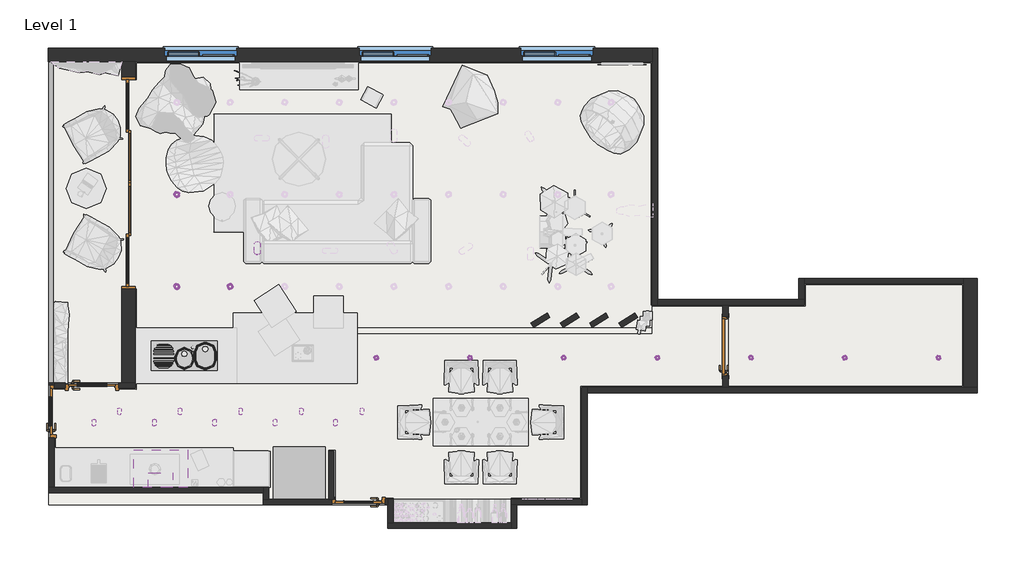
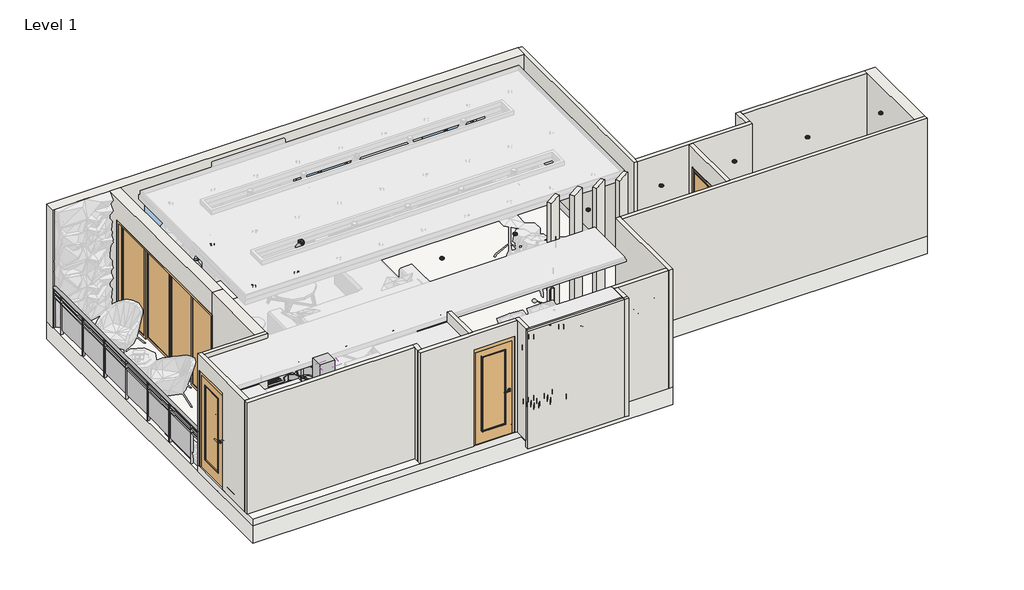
# One storey, part 1 of 3: 25 walls, 22 light fixtures, 5 doors, 3 slabs, 3 windows, 1 covering, 1 flow terminal, 1 railing.
"""IFC4 building model written with IfcOpenShell, lengths in millimetres."""

from ifc_helpers import new_model, si_unit, point, frame, origin, place, context, project, spatial, polyline, ellipse_curve, trimmed, outline, extrude, faceted_brep, transform, mapped, element, save
from ifc_brep_helpers import plane_surface, extruded_surface, advanced_brep
from components import door_7d5fc318, door_passage_single_full_lite_door_passage_single_full_lite_b622ab86, sliding_door_4_panel_aus_type_1_f1a49f1a, sink_kitchen_medium_2_basins_1120_x_500mm_da78ea91, sink_kitchen_medium_2_basins_1120_x_500mm_2c090bb4, light_fixture_2c5a0347, light_fixture_a992c653, light_fixture_01643114, corepro_led_mini_cylinder_a80fb04c, corepro_led_mini_cylinder_4b529b81, s2_2_7ed8d57b, s2_2_4e384665, floors_1_floors_1_6af37cf8, sco_horz_bar_dbl_sco_horz_bar_dbl_0faa4f1c

model = new_model("IFC4")

# Units and contexts
model_context = context("Model", 3, world=origin())
ifc_project = project(units=[si_unit("LENGTHUNIT", "METRE", prefix="MILLI")], contexts=[model_context])

# Site, building, storey
site = spatial("IfcSite", under=ifc_project)
building = spatial("IfcBuilding", under=site)
storey = spatial("IfcBuildingStorey", under=building, Name="Level 1", Elevation=0.0)

# Covering
placement = place(None, origin())
element("IfcCovering", 1, ObjectType="2' x 4' ACT System", at=placement, inside=storey, context=model_context, shape_type="SweptSolid", body=[
    extrude(outline(polyline([(-5841.5111835, -1996.8717041), (-5841.5111835, -2246.8717041), (-6256.2528575, -2246.8717041), (-6256.2528575, -1996.8717041), (-5841.5111835, -1996.8717041)])), frame((0.0, 0.0, 2648.4), z_axis=(0.0, 0.0, 1.0), x_axis=(1.0, 0.0, 0.0)), (0.0, 0.0, 1.0), 57.15),
])

# Doors
door_shape = door_7d5fc318(model_context)
element("IfcDoor", 2, ObjectType="Doors-Other- SOGAL-SOG040007 : Bloc Porte Standard 930 (Cloison 72-100mm) Chêne Blanc", at=placement, inside=storey, context=model_context, shape_type="MappedRepresentation", body=[
    mapped(door_shape, transform((3500.1720666, 141.2824486, 0.0), x_axis=(0.0, -1.0, 0.0), y_axis=(1.0, 0.0, 0.0), z_axis=(0.0, 0.0, 1.0))),
])
door_passage_single_full_lite_door_passage_single_full_lite_shape = door_passage_single_full_lite_door_passage_single_full_lite_b622ab86(model_context)
element("IfcDoor", 3, ObjectType="Door-Passage-Single-Full_Lite : Door-Passage-Single-Full_Lite", at=placement, inside=storey, context=model_context, shape_type="MappedRepresentation", body=[
    mapped(door_passage_single_full_lite_door_passage_single_full_lite_shape, transform((-7887.1991004, -961.5989847, 0.0), x_axis=(0.0, 1.0, 0.0), y_axis=(-1.0, 0.0, 0.0), z_axis=(0.0, 0.0, 1.0))),
])
element("IfcDoor", 4, ObjectType="Door-Passage-Single-Full_Lite : Door-Passage-Single-Full_Lite", at=placement, inside=storey, context=model_context, shape_type="MappedRepresentation", body=[
    mapped(door_passage_single_full_lite_door_passage_single_full_lite_shape, transform((-2703.9899912, -2487.6971901, 0.0), x_axis=(-1.0, 0.0, 0.0), y_axis=(0.0, -1.0, 0.0), z_axis=(0.0, 0.0, 1.0))),
])
element("IfcDoor", 5, ObjectType="Door-Passage-Single-Full_Lite : Door-Passage-Single-Full_Lite", at=placement, inside=storey, context=model_context, shape_type="MappedRepresentation", body=[
    mapped(door_passage_single_full_lite_door_passage_single_full_lite_shape, transform((-7209.8250642, -527.9489847, 0.0), x_axis=(1.0, 0.0, 0.0), y_axis=(0.0, 1.0, 0.0), z_axis=(0.0, 0.0, 1.0))),
])
sliding_door_4_panel_aus_type_1_shape = sliding_door_4_panel_aus_type_1_f1a49f1a(model_context)
element("IfcDoor", 6, ObjectType="Sliding Door - 4 Panel (AUS) : Type 1", at=placement, inside=storey, context=model_context, shape_type="MappedRepresentation", body=[
    mapped(sliding_door_4_panel_aus_type_1_shape, transform((-6589.8250642, 2985.0873888, -150.0), x_axis=(0.0, -1.0, 0.0), y_axis=(1.0, 0.0, 0.0), z_axis=(0.0, 0.0, 1.0))),
])

# Flow terminal
sink_kitchen_medium_2_basins_1120_x_500mm_shape = sink_kitchen_medium_2_basins_1120_x_500mm_da78ea91(model_context)
sink_kitchen_medium_2_basins_1120_x_500mm_2_shape = sink_kitchen_medium_2_basins_1120_x_500mm_2c090bb4(model_context)
element("IfcFlowTerminal", 7, ObjectType="Sink Kitchen - Medium 2 Basins : 1120 x 500mm", at=placement, inside=storey, context=model_context, shape_type="MappedRepresentation", body=[
    mapped(sink_kitchen_medium_2_basins_1120_x_500mm_shape, transform((-5649.8250642, -21.5989847, 55.0), x_axis=(1.0, 0.0, 0.0), y_axis=(0.0, 1.0, 0.0), z_axis=(0.0, 0.0, 1.0))),
    mapped(sink_kitchen_medium_2_basins_1120_x_500mm_2_shape, transform((-5649.8250642, -21.5989847, 55.0), x_axis=(1.0, 0.0, 0.0), y_axis=(0.0, 1.0, 0.0), z_axis=(0.0, 0.0, 1.0))),
])

# Light fixtures
light_fixture_shape = light_fixture_2c5a0347(model_context)
element("IfcLightFixture", 8, ObjectType="Island_Range_Hood_-_Venice_5338 : Island_Range_Hood_-_Venice_5338", at=placement, inside=storey, context=model_context, shape_type="MappedRepresentation", body=[
    mapped(light_fixture_shape, transform((-6048.8820205, -1928.4744828, 210.0), x_axis=(-1.0, 0.0, 0.0), y_axis=(0.0, -1.0, 0.0), z_axis=(0.0, 0.0, 1.0))),
])
light_fixture_2_shape = light_fixture_a992c653(model_context)
element("IfcLightFixture", 9, ObjectType="adsdsdsasdadas : نور وابسته به سطح مخروط", at=placement, inside=storey, context=model_context, shape_type="MappedRepresentation", body=[
    mapped(light_fixture_2_shape, transform((-2403.9899923, -53.2816204, 2547.3282643), x_axis=(-1.0, 0.0, 0.0), y_axis=(0.0, 1.0, 0.0), z_axis=(0.0, 0.0, -1.0))),
])
element("IfcLightFixture", 10, ObjectType="adsdsdsasdadas : نور وابسته به سطح مخروط", at=placement, inside=storey, context=model_context, shape_type="MappedRepresentation", body=[
    mapped(light_fixture_2_shape, transform((7096.0100077, -53.2816204, 2550.417829), x_axis=(-1.0, 0.0, 0.0), y_axis=(0.0, 1.0, 0.0), z_axis=(0.0, 0.0, -1.0))),
])
element("IfcLightFixture", 11, ObjectType="adsdsdsasdadas : نور وابسته به سطح مخروط", at=placement, inside=storey, context=model_context, shape_type="MappedRepresentation", body=[
    mapped(light_fixture_2_shape, transform((-820.6566589, -53.2816204, 2550.417829), x_axis=(-1.0, 0.0, 0.0), y_axis=(0.0, 1.0, 0.0), z_axis=(0.0, 0.0, -1.0))),
])
element("IfcLightFixture", 12, ObjectType="adsdsdsasdadas : نور وابسته به سطح مخروط", at=placement, inside=storey, context=model_context, shape_type="MappedRepresentation", body=[
    mapped(light_fixture_2_shape, transform((762.6766744, -53.2816204, 2550.417829), x_axis=(-1.0, 0.0, 0.0), y_axis=(0.0, 1.0, 0.0), z_axis=(0.0, 0.0, -1.0))),
])
element("IfcLightFixture", 13, ObjectType="adsdsdsasdadas : نور وابسته به سطح مخروط", at=placement, inside=storey, context=model_context, shape_type="MappedRepresentation", body=[
    mapped(light_fixture_2_shape, transform((2346.0100077, -53.2816204, 2550.417829), x_axis=(-1.0, 0.0, 0.0), y_axis=(0.0, 1.0, 0.0), z_axis=(0.0, 0.0, -1.0))),
])
element("IfcLightFixture", 14, ObjectType="adsdsdsasdadas : نور وابسته به سطح مخروط", at=placement, inside=storey, context=model_context, shape_type="MappedRepresentation", body=[
    mapped(light_fixture_2_shape, transform((3929.3433411, -53.2816204, 2550.417829), x_axis=(-1.0, 0.0, 0.0), y_axis=(0.0, 1.0, 0.0), z_axis=(0.0, 0.0, -1.0))),
])
element("IfcLightFixture", 15, ObjectType="adsdsdsasdadas : نور وابسته به سطح مخروط", at=placement, inside=storey, context=model_context, shape_type="MappedRepresentation", body=[
    mapped(light_fixture_2_shape, transform((5512.6766744, -53.2816204, 2550.417829), x_axis=(-1.0, 0.0, 0.0), y_axis=(0.0, 1.0, 0.0), z_axis=(0.0, 0.0, -1.0))),
])
light_fixture_3_shape = light_fixture_01643114(model_context)
element("IfcLightFixture", 16, ObjectType="PIPES C S : 1700 21W-830 28°", at=placement, inside=storey, context=model_context, shape_type="MappedRepresentation", body=[
    mapped(light_fixture_3_shape, transform((-4413.2653116, 1755.7525122, 2550.0), x_axis=(0.0, -1.0, 0.0), y_axis=(-1.0, 0.0, 0.0), z_axis=(0.0, 0.0, -1.0))),
])
corepro_led_mini_cylinder_shape = corepro_led_mini_cylinder_a80fb04c(model_context)
element("IfcLightFixture", 17, ObjectType="Lighting-Track-Philips_Lightolier-CorePro_LED_Mini_Cylinder : CorePro LED Mini Cylinder", at=placement, inside=storey, context=model_context, shape_type="MappedRepresentation", body=[
    mapped(corepro_led_mini_cylinder_shape, transform((-3094.8250642, -1165.6971901, 2320.0), x_axis=(-1.0, 0.0, 0.0), y_axis=(0.0, 1.0, 0.0), z_axis=(0.0, 0.0, -1.0))),
])
element("IfcLightFixture", 18, ObjectType="Lighting-Track-Philips_Lightolier-CorePro_LED_Mini_Cylinder : CorePro LED Mini Cylinder", at=placement, inside=storey, context=model_context, shape_type="MappedRepresentation", body=[
    mapped(corepro_led_mini_cylinder_shape, transform((-7174.8250642, -1165.6971901, 2320.0), x_axis=(-1.0, 0.0, 0.0), y_axis=(0.0, 1.0, 0.0), z_axis=(0.0, 0.0, -1.0))),
])
element("IfcLightFixture", 19, ObjectType="Lighting-Track-Philips_Lightolier-CorePro_LED_Mini_Cylinder : CorePro LED Mini Cylinder", at=placement, inside=storey, context=model_context, shape_type="MappedRepresentation", body=[
    mapped(corepro_led_mini_cylinder_shape, transform((-4114.8250642, -1165.6971901, 2320.0), x_axis=(-1.0, 0.0, 0.0), y_axis=(0.0, 1.0, 0.0), z_axis=(0.0, 0.0, -1.0))),
])
element("IfcLightFixture", 20, ObjectType="Lighting-Track-Philips_Lightolier-CorePro_LED_Mini_Cylinder : CorePro LED Mini Cylinder", at=placement, inside=storey, context=model_context, shape_type="MappedRepresentation", body=[
    mapped(corepro_led_mini_cylinder_shape, transform((-5134.8250642, -1165.6971901, 2320.0), x_axis=(-1.0, 0.0, 0.0), y_axis=(0.0, 1.0, 0.0), z_axis=(0.0, 0.0, -1.0))),
])
element("IfcLightFixture", 21, ObjectType="Lighting-Track-Philips_Lightolier-CorePro_LED_Mini_Cylinder : CorePro LED Mini Cylinder", at=placement, inside=storey, context=model_context, shape_type="MappedRepresentation", body=[
    mapped(corepro_led_mini_cylinder_shape, transform((-6154.8250642, -1165.6971901, 2320.0), x_axis=(-1.0, 0.0, 0.0), y_axis=(0.0, 1.0, 0.0), z_axis=(0.0, 0.0, -1.0))),
])
corepro_led_mini_cylinder_2_shape = corepro_led_mini_cylinder_4b529b81(model_context)
element("IfcLightFixture", 22, ObjectType="Lighting-Track-Philips_Lightolier-CorePro_LED_Mini_Cylinder : CorePro LED Mini Cylinder", at=placement, inside=storey, context=model_context, shape_type="MappedRepresentation", body=[
    mapped(corepro_led_mini_cylinder_2_shape, transform((-2644.8250642, -946.7891797, 2320.0), x_axis=(-1.0, 0.0, 0.0), y_axis=(0.0, 1.0, 0.0), z_axis=(0.0, 0.0, -1.0))),
])
element("IfcLightFixture", 23, ObjectType="Lighting-Track-Philips_Lightolier-CorePro_LED_Mini_Cylinder : CorePro LED Mini Cylinder", at=placement, inside=storey, context=model_context, shape_type="MappedRepresentation", body=[
    mapped(corepro_led_mini_cylinder_2_shape, transform((-6744.8250642, -946.7891797, 2320.0), x_axis=(-1.0, 0.0, 0.0), y_axis=(0.0, 1.0, 0.0), z_axis=(0.0, 0.0, -1.0))),
])
element("IfcLightFixture", 24, ObjectType="Lighting-Track-Philips_Lightolier-CorePro_LED_Mini_Cylinder : CorePro LED Mini Cylinder", at=placement, inside=storey, context=model_context, shape_type="MappedRepresentation", body=[
    mapped(corepro_led_mini_cylinder_2_shape, transform((-3669.8250642, -946.7891797, 2320.0), x_axis=(-1.0, 0.0, 0.0), y_axis=(0.0, 1.0, 0.0), z_axis=(0.0, 0.0, -1.0))),
])
element("IfcLightFixture", 25, ObjectType="Lighting-Track-Philips_Lightolier-CorePro_LED_Mini_Cylinder : CorePro LED Mini Cylinder", at=placement, inside=storey, context=model_context, shape_type="MappedRepresentation", body=[
    mapped(corepro_led_mini_cylinder_2_shape, transform((-4694.8250642, -946.7891797, 2320.0), x_axis=(-1.0, 0.0, 0.0), y_axis=(0.0, 1.0, 0.0), z_axis=(0.0, 0.0, -1.0))),
])
element("IfcLightFixture", 26, ObjectType="Lighting-Track-Philips_Lightolier-CorePro_LED_Mini_Cylinder : CorePro LED Mini Cylinder", at=placement, inside=storey, context=model_context, shape_type="MappedRepresentation", body=[
    mapped(corepro_led_mini_cylinder_2_shape, transform((-5719.8250642, -946.7891797, 2320.0), x_axis=(-1.0, 0.0, 0.0), y_axis=(0.0, 1.0, 0.0), z_axis=(0.0, 0.0, -1.0))),
])
s2_2_shape = s2_2_7ed8d57b(model_context)
element("IfcLightFixture", 27, ObjectType="S2 (2) : نور وابسته به سطح مخروط", at=placement, inside=storey, context=model_context, shape_type="MappedRepresentation", body=[
    mapped(s2_2_shape, transform((-4874.8250642, 1150.9631519, 2366.875), x_axis=(1.0, 0.0, 0.0), y_axis=(0.0, -1.0, 0.0), z_axis=(0.0, 0.0, -1.0))),
])
element("IfcLightFixture", 28, ObjectType="S2 (2) : نور وابسته به سطح مخروط", at=placement, inside=storey, context=model_context, shape_type="MappedRepresentation", body=[
    mapped(s2_2_shape, transform((-5774.8250656, 2708.0649126, 2374.8992621), x_axis=(-1.0, 0.0, 0.0), y_axis=(0.0, 1.0, 0.0), z_axis=(0.0, 0.0, -1.0))),
])
s2_2_2_shape = s2_2_4e384665(model_context)
element("IfcLightFixture", 29, ObjectType="S2 (2) : نور وابسته به سطح مخروط", at=placement, inside=storey, context=model_context, shape_type="MappedRepresentation", body=[
    mapped(s2_2_2_shape, transform((-5774.8250656, 1150.9631519, 2374.8992621), x_axis=(-1.0, 0.0, 0.0), y_axis=(0.0, 1.0, 0.0), z_axis=(0.0, 0.0, -1.0))),
])

# Railing
element("IfcRailing", 30, ObjectType="Glass Panel - Bottom Fill", at=placement, inside=storey, context=model_context, shape_type="SolidModel", body=[
    advanced_brep(
    [(-7866.7250642, 4955.5879527, 764.4), (-7942.9250642, 4955.5879527, 764.4), (-7866.7250642, -476.5989847, 764.4), (-7942.9250642, -476.5989847, 764.4)],
    [
        (0, 1, ellipse_curve(frame((-7904.8250642, 4955.5879527, 764.4), z_axis=(0.0, 1.0, 0.0), x_axis=(-1.0, 0.0, 0.0)), 38.1, 28.575)),
        (1, 0, ellipse_curve(frame((-7904.8250642, 4955.5879527, 764.4), z_axis=(0.0, 1.0, 0.0), x_axis=(-1.0, 0.0, 0.0)), 38.1, 28.575)),
        (2, 3, ellipse_curve(frame((-7904.8250642, -476.5989847, 764.4), z_axis=(0.0, -1.0, 0.0), x_axis=(-1.0, 0.0, 0.0)), 38.1, 28.575)),
        (3, 2, ellipse_curve(frame((-7904.8250642, -476.5989847, 764.4), z_axis=(0.0, -1.0, 0.0), x_axis=(-1.0, 0.0, 0.0)), 38.1, 28.575)),
        (0, 2),
        (3, 1),
    ],
    [
        plane_surface(frame((-7904.8250642, 4955.5879527, 764.4), z_axis=(0.0, 1.0, 0.0), x_axis=(0.0, 0.0, -1.0))),
        plane_surface(frame((-7904.8250642, -476.5989847, 764.4), z_axis=(0.0, -1.0, 0.0), x_axis=(0.0, 0.0, -1.0))),
        extruded_surface(trimmed(ellipse_curve(frame((-7904.8250642, -476.5989847, 764.4), z_axis=(0.0, 1.0, 0.0), x_axis=(-1.0, 0.0, 0.0)), 38.1, 28.575), [point((-7866.7250642, -476.5989847, 764.4))], [point((-7942.9250642, -476.5989847, 764.4))], True, "CARTESIAN"), (0.0, 5432.1869374, 0.0), 5432.1869374),
        extruded_surface(trimmed(ellipse_curve(frame((-7904.8250642, -476.5989847, 764.4), z_axis=(0.0, 1.0, 0.0), x_axis=(-1.0, 0.0, 0.0)), 38.1, 28.575), [point((-7942.9250642, -476.5989847, 764.4))], [point((-7866.7250642, -476.5989847, 764.4))], True, "CARTESIAN"), (0.0, 5432.1869374, 0.0), 5432.1869374),
    ],
    [
        (0, [[1, 2]]),
        (1, [[3, 4]]),
        (2, [[-1, 5, -4, 6]]),
        (3, [[-2, -6, -3, -5]]),
    ],
),
    extrude(outline(polyline([(-7917.5250642, 4955.5879527), (-7892.1250642, 4955.5879527), (-7892.1250642, -476.5989847), (-7917.5250642, -476.5989847), (-7917.5250642, 4955.5879527)])), frame((0.0, 0.0, 650.1), z_axis=(0.0, 0.0, 1.0), x_axis=(1.0, 0.0, 0.0)), (0.0, 0.0, 1.0), 25.4),
    extrude(outline(polyline([(-7917.5250642, 4955.5879527), (-7892.1250642, 4955.5879527), (-7892.1250642, -476.5989847), (-7917.5250642, -476.5989847), (-7917.5250642, 4955.5879527)])), frame((0.0, 0.0, 548.5), z_axis=(0.0, 0.0, 1.0), x_axis=(1.0, 0.0, 0.0)), (0.0, 0.0, 1.0), 25.4),
    extrude(outline(polyline([(-7930.2250642, -192.555516), (-7879.4250642, -192.555516), (-7879.4250642, -205.255516), (-7930.2250642, -205.255516), (-7930.2250642, -192.555516)])), frame((0.0, 0.0, -150.0), z_axis=(0.0, 0.0, 1.0), x_axis=(1.0, 0.0, 0.0)), (0.0, 0.0, 1.0), 885.6788223),
    extrude(outline(polyline([(-7898.2899072, 613.894484), (-7898.2899072, -198.905516), (-7904.6399072, -198.905516), (-7904.6399072, 613.894484), (-7898.2899072, 613.894484)])), frame((0.0, 0.0, -48.4), z_axis=(0.0, 0.0, 1.0), x_axis=(1.0, 0.0, 0.0)), (0.0, 0.0, 1.0), 596.9),
    extrude(outline(polyline([(-7930.2250642, 620.244484), (-7879.4250642, 620.244484), (-7879.4250642, 607.544484), (-7930.2250642, 607.544484), (-7930.2250642, 620.244484)])), frame((0.0, 0.0, -150.0), z_axis=(0.0, 0.0, 1.0), x_axis=(1.0, 0.0, 0.0)), (0.0, 0.0, 1.0), 885.6788223),
    extrude(outline(polyline([(-7898.2899072, 1426.694484), (-7898.2899072, 613.894484), (-7904.6399072, 613.894484), (-7904.6399072, 1426.694484), (-7898.2899072, 1426.694484)])), frame((0.0, 0.0, -48.4), z_axis=(0.0, 0.0, 1.0), x_axis=(1.0, 0.0, 0.0)), (0.0, 0.0, 1.0), 596.9),
    extrude(outline(polyline([(-7930.2250642, 1433.044484), (-7879.4250642, 1433.044484), (-7879.4250642, 1420.344484), (-7930.2250642, 1420.344484), (-7930.2250642, 1433.044484)])), frame((0.0, 0.0, -150.0), z_axis=(0.0, 0.0, 1.0), x_axis=(1.0, 0.0, 0.0)), (0.0, 0.0, 1.0), 885.6788223),
    extrude(outline(polyline([(-7898.2899072, 2239.494484), (-7898.2899072, 1426.694484), (-7904.6399072, 1426.694484), (-7904.6399072, 2239.494484), (-7898.2899072, 2239.494484)])), frame((0.0, 0.0, -48.4), z_axis=(0.0, 0.0, 1.0), x_axis=(1.0, 0.0, 0.0)), (0.0, 0.0, 1.0), 596.9),
    extrude(outline(polyline([(-7930.2250642, 2245.844484), (-7879.4250642, 2245.844484), (-7879.4250642, 2233.144484), (-7930.2250642, 2233.144484), (-7930.2250642, 2245.844484)])), frame((0.0, 0.0, -150.0), z_axis=(0.0, 0.0, 1.0), x_axis=(1.0, 0.0, 0.0)), (0.0, 0.0, 1.0), 885.6788223),
    extrude(outline(polyline([(-7898.2899072, 3052.294484), (-7898.2899072, 2239.494484), (-7904.6399072, 2239.494484), (-7904.6399072, 3052.294484), (-7898.2899072, 3052.294484)])), frame((0.0, 0.0, -48.4), z_axis=(0.0, 0.0, 1.0), x_axis=(1.0, 0.0, 0.0)), (0.0, 0.0, 1.0), 596.9),
    extrude(outline(polyline([(-7930.2250642, 3058.644484), (-7879.4250642, 3058.644484), (-7879.4250642, 3045.944484), (-7930.2250642, 3045.944484), (-7930.2250642, 3058.644484)])), frame((0.0, 0.0, -150.0), z_axis=(0.0, 0.0, 1.0), x_axis=(1.0, 0.0, 0.0)), (0.0, 0.0, 1.0), 885.6788223),
    extrude(outline(polyline([(-7898.2899072, 3865.094484), (-7898.2899072, 3052.294484), (-7904.6399072, 3052.294484), (-7904.6399072, 3865.094484), (-7898.2899072, 3865.094484)])), frame((0.0, 0.0, -48.4), z_axis=(0.0, 0.0, 1.0), x_axis=(1.0, 0.0, 0.0)), (0.0, 0.0, 1.0), 596.9),
    extrude(outline(polyline([(-7930.2250642, 3871.444484), (-7879.4250642, 3871.444484), (-7879.4250642, 3858.744484), (-7930.2250642, 3858.744484), (-7930.2250642, 3871.444484)])), frame((0.0, 0.0, -150.0), z_axis=(0.0, 0.0, 1.0), x_axis=(1.0, 0.0, 0.0)), (0.0, 0.0, 1.0), 885.6788223),
    extrude(outline(polyline([(-7898.2899072, 4677.894484), (-7898.2899072, 3865.094484), (-7904.6399072, 3865.094484), (-7904.6399072, 4677.894484), (-7898.2899072, 4677.894484)])), frame((0.0, 0.0, -48.4), z_axis=(0.0, 0.0, 1.0), x_axis=(1.0, 0.0, 0.0)), (0.0, 0.0, 1.0), 596.9),
    extrude(outline(polyline([(-7930.2250642, 4684.244484), (-7879.4250642, 4684.244484), (-7879.4250642, 4671.544484), (-7930.2250642, 4671.544484), (-7930.2250642, 4684.244484)])), frame((0.0, 0.0, -150.0), z_axis=(0.0, 0.0, 1.0), x_axis=(1.0, 0.0, 0.0)), (0.0, 0.0, 1.0), 885.6788223),
    extrude(outline(polyline([(-7914.3500642, -463.8989847), (-7895.3000642, -463.8989847), (-7895.3000642, -482.9489847), (-7914.3500642, -482.9489847), (-7914.3500642, -463.8989847)])), frame((0.0, 0.0, -150.0), z_axis=(0.0, 0.0, 1.0), x_axis=(1.0, 0.0, 0.0)), (0.0, 0.0, 1.0), 885.6788223),
    extrude(outline(polyline([(-7914.3500642, 4961.9379527), (-7895.3000642, 4961.9379527), (-7895.3000642, 4942.8879527), (-7914.3500642, 4942.8879527), (-7914.3500642, 4961.9379527)])), frame((0.0, 0.0, -150.0), z_axis=(0.0, 0.0, 1.0), x_axis=(1.0, 0.0, 0.0)), (0.0, 0.0, 1.0), 885.6788223),
])

# Slabs
floors_1_floors_1_shape = floors_1_floors_1_6af37cf8(model_context)
element("IfcSlab", 31, ObjectType="Floors 1 : Floors 1", at=placement, inside=storey, context=model_context, shape_type="MappedRepresentation", body=[
    mapped(floors_1_floors_1_shape, transform((0.0, 0.0, 0.0), x_axis=(1.0, 0.0, 0.0), y_axis=(0.0, 1.0, 0.0), z_axis=(0.0, 0.0, 1.0))),
])
element("IfcSlab", 32, ObjectType="Generic - 12\" 3", at=placement, inside=storey, context=model_context, shape_type="SweptSolid", body=[
    extrude(outline(polyline([(-7938.5491004, 5185.5879527), (2353.8919816, 5185.5879527), (2353.8919816, 931.2824486), (4736.4521517, 931.2824486), (4736.4521517, 1290.1994885), (7755.4800232, 1290.1994885), (7755.4800232, -648.7175514), (1160.0523126, -648.7175514), (1160.0523126, -2539.0471901), (-7938.5491004, -2539.0471901), (-7938.5491004, 5185.5879527)])), frame((0.0, 0.0, -550.0), z_axis=(0.0, 0.0, 1.0), x_axis=(1.0, 0.0, 0.0)), (0.0, 0.0, 1.0), 400.0),
])
element("IfcSlab", 33, ObjectType="Generic - 12\" 4", at=placement, inside=storey, context=model_context, shape_type="Brep", body=[
    faceted_brep([(-118.9899912, -2449.0471901, -150.0), (-118.9899912, -2849.0471901, -150.0), (-2118.9899912, -2849.0471901, -150.0), (-2118.9899912, -2539.0471901, -150.0), (-7938.5491004, -2539.0471901, -150.0), (-7938.5491004, -476.5989847, -150.0), (-6704.8250642, -476.5989847, -150.0), (-6704.8250642, 352.1543106, -150.0), (-2729.1859986, 352.1543106, -150.0), (2263.8919816, 352.1543106, -150.0), (2263.8919816, 432.1543106, -150.0), (2263.8919816, 841.2824486, -150.0), (4826.4521517, 841.2824486, -150.0), (4826.4521517, 1200.1994885, -150.0), (7525.4800232, 1200.1994885, -150.0), (7525.4800232, -558.7175514, -150.0), (1070.0523126, -558.7175514, -150.0), (1070.0523126, -2449.0471901, -150.0), (-118.9899912, -2449.0471901, 0.0), (1070.0523126, -2449.0471901, 0.0), (1070.0523126, -558.7175514, 0.0), (7525.4800232, -558.7175514, 0.0), (7525.4800232, 1200.1994885, 0.0), (4826.4521517, 1200.1994885, 0.0), (4826.4521517, 841.2824486, 0.0), (2263.8919816, 841.2824486, 0.0), (2263.8919816, 452.1543106, 0.0), (2263.8919816, 352.1543106, 0.0), (-2729.1859986, 352.1543106, 0.0), (-6704.8250642, 352.1543106, 0.0), (-6704.8250642, -476.5989847, 0.0), (-7938.5491004, -476.5989847, 0.0), (-7938.5491004, -2539.0471901, 0.0), (-2118.9899912, -2539.0471901, 0.0), (-2118.9899912, -2849.0471901, 0.0), (-118.9899912, -2849.0471901, 0.0)], [[[0, 1, 2, 3, 4, 5, 6, 7, 8, 9, 10, 11, 12, 13, 14, 15, 16, 17]], [[18, 19, 20, 21, 22, 23, 24, 25, 26, 27, 28, 29, 30, 31, 32, 33, 34, 35]], [[5, 4, 32, 31]], [[17, 16, 20, 19]], [[0, 17, 19, 18]], [[1, 0, 18, 35]], [[2, 1, 35, 34]], [[3, 2, 34, 33]], [[4, 3, 33, 32]], [[12, 11, 25, 24]], [[13, 12, 24, 23]], [[14, 13, 23, 22]], [[15, 14, 22, 21]], [[16, 15, 21, 20]], [[9, 8, 7, 29, 28, 27]], [[11, 10, 9, 27, 26, 25]], [[6, 5, 31, 30]], [[7, 6, 30, 29]]]),
])

# Walls
element("IfcWall", 34, ObjectType="23cm", at=placement, inside=storey, context=model_context, shape_type="Brep", body=[
    faceted_brep([(-6704.8250642, -476.5989847, -150.0), (-6704.8250642, -476.5989847, 2550.0), (-6704.8250642, 1119.3293876, 2550.0), (-6704.8250642, 1119.3293876, 2040.0), (-6704.8250642, 1109.3293876, 2040.0), (-6704.8250642, 1109.3293876, -150.0), (-6474.8250642, -476.5989847, 2550.0), (-6474.8250642, -476.5989847, 0.0), (-6474.8250642, -476.5989847, -150.0), (-6474.8250642, 1109.3293876, -150.0), (-6474.8250642, 1109.3293876, 2040.0), (-6474.8250642, 1119.3293876, 2040.0), (-6474.8250642, 1119.3293876, 2550.0)], [[[0, 1, 2, 3, 4, 5]], [[6, 7, 8, 9, 10, 11, 12]], [[8, 0, 5, 9]], [[2, 12, 11, 3]], [[1, 0, 8, 7, 6]], [[10, 4, 3, 11]], [[4, 10, 9, 5]], [[2, 1, 6, 12]]]),
])
element("IfcWall", 35, ObjectType="23cm", at=placement, inside=storey, context=model_context, shape_type="SweptSolid", body=[
    extrude(outline(polyline([(1119.3293876, 2550.0), (4955.5879527, 2550.0), (4955.5879527, -150.0), (4689.3293876, -150.0), (4689.3293876, 2040.0), (1119.3293876, 2040.0), (1119.3293876, 2550.0)])), frame((-6704.8250642, 0.0, 0.0), z_axis=(1.0, 0.0, 0.0), x_axis=(0.0, 1.0, 0.0)), (0.0, 0.0, 1.0), 230.0),
])
element("IfcWall", 36, ObjectType="23cm", at=placement, inside=storey, context=model_context, shape_type="Brep", body=[
    faceted_brep([(2263.8919816, 5185.5879527, -150.0), (-7943.5053604, 5185.5879527, -150.0), (-7943.5053604, 5185.5879527, 2550.0), (2263.8919816, 5185.5879527, 2550.0), (-5979.8250642, 5185.5879527, 2100.0), (-5979.8250642, 5185.5879527, 300.0), (-4759.8250642, 5185.5879527, 300.0), (-4759.8250642, 5185.5879527, 2100.0), (-2691.5399964, 5185.5879527, 2100.0), (-2691.5399964, 5185.5879527, 300.0), (-1471.5399964, 5185.5879527, 300.0), (-1471.5399964, 5185.5879527, 2100.0), (38.8919816, 5185.5879527, 2100.0), (38.8919816, 5185.5879527, 300.0), (1258.8919816, 5185.5879527, 300.0), (1258.8919816, 5185.5879527, 2100.0), (-7943.5053604, 4955.5879527, -150.0), (-6704.8250642, 4955.5879527, -150.0), (-6474.8250642, 4955.5879527, -150.0), (2263.8919816, 4955.5879527, -150.0), (2263.8919816, 4955.5879527, 2550.0), (-6474.8250642, 4955.5879527, 2550.0), (-6704.8250642, 4955.5879527, 2550.0), (-7943.5053604, 4955.5879527, 2550.0), (-4784.8250642, 4955.5879527, 300.0), (-5954.8250642, 4955.5879527, 300.0), (-5954.8250642, 4955.5879527, 2075.0), (-4784.8250642, 4955.5879527, 2075.0), (-1496.5399964, 4955.5879527, 300.0), (-2666.5399964, 4955.5879527, 300.0), (-2666.5399964, 4955.5879527, 2075.0), (-1496.5399964, 4955.5879527, 2075.0), (1233.8919816, 4955.5879527, 300.0), (63.8919816, 4955.5879527, 300.0), (63.8919816, 4955.5879527, 2075.0), (1233.8919816, 4955.5879527, 2075.0), (-5979.8250642, 5058.0879527, 2100.0), (-4759.8250642, 5058.0879527, 2100.0), (-4759.8250642, 5058.0879527, 300.0), (-4784.8250642, 5058.0879527, 300.0), (-4784.8250642, 5058.0879527, 2075.0), (-5954.8250642, 5058.0879527, 2075.0), (-5954.8250642, 5058.0879527, 300.0), (-5979.8250642, 5058.0879527, 300.0), (-2691.5399964, 5058.0879527, 2100.0), (-1471.5399964, 5058.0879527, 2100.0), (-1471.5399964, 5058.0879527, 300.0), (-1496.5399964, 5058.0879527, 300.0), (-1496.5399964, 5058.0879527, 2075.0), (-2666.5399964, 5058.0879527, 2075.0), (-2666.5399964, 5058.0879527, 300.0), (-2691.5399964, 5058.0879527, 300.0), (38.8919816, 5058.0879527, 2100.0), (1258.8919816, 5058.0879527, 2100.0), (1258.8919816, 5058.0879527, 300.0), (1233.8919816, 5058.0879527, 300.0), (1233.8919816, 5058.0879527, 2075.0), (63.8919816, 5058.0879527, 2075.0), (63.8919816, 5058.0879527, 300.0), (38.8919816, 5058.0879527, 300.0)], [[[0, 1, 2, 3], [4, 5, 6, 7], [8, 9, 10, 11], [12, 13, 14, 15]], [[16, 17, 18, 19, 20, 21, 22, 23], [24, 25, 26, 27], [28, 29, 30, 31], [32, 33, 34, 35]], [[1, 0, 19, 18, 17, 16]], [[2, 1, 16, 23]], [[36, 37, 38, 39, 40, 41, 42, 43]], [[36, 43, 5, 4]], [[39, 38, 6, 5, 43, 42, 25, 24]], [[38, 37, 7, 6]], [[37, 36, 4, 7]], [[41, 40, 27, 26]], [[42, 41, 26, 25]], [[40, 39, 24, 27]], [[44, 45, 46, 47, 48, 49, 50, 51]], [[44, 51, 9, 8]], [[47, 46, 10, 9, 51, 50, 29, 28]], [[46, 45, 11, 10]], [[45, 44, 8, 11]], [[49, 48, 31, 30]], [[50, 49, 30, 29]], [[48, 47, 28, 31]], [[3, 2, 23, 22, 21, 20]], [[52, 53, 54, 55, 56, 57, 58, 59]], [[52, 59, 13, 12]], [[55, 54, 14, 13, 59, 58, 33, 32]], [[54, 53, 15, 14]], [[53, 52, 12, 15]], [[57, 56, 35, 34]], [[58, 57, 34, 33]], [[56, 55, 32, 35]], [[0, 3, 20, 19]]]),
])
element("IfcWall", 37, ObjectType="23cm", at=placement, inside=storey, context=model_context, shape_type="Brep", body=[
    faceted_brep([(7755.4800232, -558.7175514, -150.0), (7755.4800232, 1290.1994885, -150.0), (7755.4800232, 1290.1994885, 2550.0), (7755.4800232, -558.7175514, 2550.0), (7525.4800232, -558.7175514, -150.0), (7525.4800232, -558.7175514, 2550.0), (7525.4800232, 1200.1994885, 2550.0), (7525.4800232, 1290.1994885, 2550.0), (7525.4800232, 1290.1994885, -150.0), (7525.4800232, 1200.1994885, -150.0)], [[[0, 1, 2, 3]], [[4, 5, 6, 7, 8, 9]], [[1, 0, 4, 9, 8]], [[2, 1, 8, 7]], [[0, 3, 5, 4]], [[3, 2, 7, 6, 5]]]),
])
element("IfcWall", 38, ObjectType="9cm", at=placement, inside=storey, context=model_context, shape_type="Brep", body=[
    faceted_brep([(1160.0523126, -2539.0471901, -150.0), (1160.0523126, -648.7175514, -150.0), (1160.0523126, -558.7175514, -150.0), (1160.0523126, -558.7175514, 2550.0), (1160.0523126, -648.7175514, 2550.0), (1160.0523126, -2539.0471901, 2550.0), (1070.0523126, -2539.0471901, -150.0), (1070.0523126, -2539.0471901, 2550.0), (1070.0523126, -2449.0471901, 2550.0), (1070.0523126, -558.7175514, 2550.0), (1070.0523126, -558.7175514, -150.0), (1070.0523126, -2449.0471901, -150.0)], [[[0, 1, 2, 3, 4, 5]], [[6, 7, 8, 9, 10, 11]], [[2, 1, 0, 6, 11, 10]], [[0, 5, 7, 6]], [[5, 4, 3, 9, 8, 7]], [[3, 2, 10, 9]]]),
])
element("IfcWall", 39, ObjectType="9cm", at=placement, inside=storey, context=model_context, shape_type="Brep", body=[
    faceted_brep([(-118.9899912, -2539.0471901, -150.0), (-28.9899912, -2539.0471901, -150.0), (1070.0523126, -2539.0471901, -150.0), (1070.0523126, -2539.0471901, 2550.0), (-28.9899912, -2539.0471901, 2550.0), (-118.9899912, -2539.0471901, 2550.0), (-118.9899912, -2449.0471901, -150.0), (-118.9899912, -2449.0471901, 2550.0), (1070.0523126, -2449.0471901, 2550.0), (1070.0523126, -2449.0471901, -150.0)], [[[0, 1, 2, 3, 4, 5]], [[6, 7, 8, 9]], [[2, 1, 0, 6, 9]], [[3, 2, 9, 8]], [[0, 5, 7, 6]], [[5, 4, 3, 8, 7]]]),
])
element("IfcWall", 40, ObjectType="9cm", at=placement, inside=storey, context=model_context, shape_type="Brep", body=[
    faceted_brep([(-28.9899912, -2939.0471901, -150.0), (-28.9899912, -2539.0471901, -150.0), (-28.9899912, -2539.0471901, 2550.0), (-28.9899912, -2887.7987012, 2550.0), (-28.9899912, -2939.0471901, 2550.0), (-118.9899912, -2939.0471901, -150.0), (-118.9899912, -2939.0471901, 2550.0), (-118.9899912, -2887.7987012, 2550.0), (-118.9899912, -2849.0471901, 2550.0), (-118.9899912, -2539.0471901, 2550.0), (-118.9899912, -2539.0471901, -150.0), (-118.9899912, -2849.0471901, -150.0)], [[[0, 1, 2, 3, 4]], [[5, 6, 7, 8, 9, 10, 11]], [[1, 0, 5, 11, 10]], [[2, 1, 10, 9]], [[0, 4, 6, 5]], [[4, 3, 7, 6]], [[3, 2, 9, 8, 7]]]),
])
element("IfcWall", 41, ObjectType="9cm", at=placement, inside=storey, context=model_context, shape_type="Brep", body=[
    faceted_brep([(-2208.9899912, -2939.0471901, -150.0), (-118.9899912, -2939.0471901, -150.0), (-118.9899912, -2939.0471901, 2550.0), (-2208.9899912, -2939.0471901, 2550.0), (-2208.9899912, -2849.0471901, -150.0), (-2208.9899912, -2849.0471901, 0.0), (-2208.9899912, -2849.0471901, 2550.0), (-2118.9899912, -2849.0471901, 2550.0), (-118.9899912, -2849.0471901, 2550.0), (-118.9899912, -2849.0471901, -150.0), (-118.9899912, -2887.7987012, 2550.0), (-2208.9899912, -2887.7987012, 2550.0)], [[[0, 1, 2, 3]], [[4, 5, 6, 7, 8, 9]], [[1, 0, 4, 9]], [[2, 1, 9, 8, 10]], [[0, 3, 11, 6, 5, 4]], [[3, 2, 10, 11]], [[10, 8, 7, 6, 11]]]),
])
element("IfcWall", 42, ObjectType="9cm", at=placement, inside=storey, context=model_context, shape_type="Brep", body=[
    faceted_brep([(-2208.9899912, -2449.0471901, 0.0), (-2208.9899912, -2539.0471901, 0.0), (-2208.9899912, -2849.0471901, 0.0), (-2208.9899912, -2849.0471901, 2550.0), (-2208.9899912, -2539.0471901, 2550.0), (-2208.9899912, -2449.0471901, 2550.0), (-2118.9899912, -2449.0471901, 0.0), (-2118.9899912, -2449.0471901, 2550.0), (-2118.9899912, -2849.0471901, 2550.0), (-2118.9899912, -2849.0471901, 0.0)], [[[0, 1, 2, 3, 4, 5]], [[6, 7, 8, 9]], [[2, 1, 0, 6, 9]], [[3, 2, 9, 8]], [[0, 5, 7, 6]], [[5, 4, 3, 8, 7]]]),
])
element("IfcWall", 43, ObjectType="9cm", at=placement, inside=storey, context=model_context, shape_type="Brep", body=[
    faceted_brep([(-3209.7531345, -1640.348587, 0.0), (-3209.7531345, -2449.0471901, 0.0), (-3209.7531345, -2449.0471901, 2550.0), (-3209.7531345, -1640.348587, 2550.0), (-3119.7531345, -1640.348587, 0.0), (-3119.7531345, -1640.348587, 2550.0), (-3119.7531345, -2449.0471901, 2550.0), (-3119.7531345, -2449.0471901, 0.0), (-3154.7899912, -2449.0471901, 0.0)], [[[0, 1, 2, 3]], [[4, 5, 6, 7]], [[1, 0, 4, 7, 8]], [[0, 3, 5, 4]], [[3, 2, 6, 5]], [[2, 1, 8, 7, 6]]]),
])
element("IfcWall", 44, ObjectType="9cm", at=placement, inside=storey, context=model_context, shape_type="Brep", body=[
    faceted_brep([(-4311.6034641, -2539.0471901, 2550.0), (-4311.6034641, -2539.0471901, 0.0), (-3154.7899912, -2539.0471901, 0.0), (-3154.7899912, -2539.0471901, 2211.6), (-2253.1899912, -2539.0471901, 2211.6), (-2253.1899912, -2539.0471901, 0.0), (-2208.9899912, -2539.0471901, 0.0), (-2208.9899912, -2539.0471901, 2550.0), (-4311.6034641, -2449.0471901, 0.0), (-4311.6034641, -2449.0471901, 2550.0), (-4221.6034641, -2449.0471901, 2550.0), (-3209.7531345, -2449.0471901, 2550.0), (-3119.7531345, -2449.0471901, 2550.0), (-2208.9899912, -2449.0471901, 2550.0), (-2208.9899912, -2449.0471901, 0.0), (-2253.1899912, -2449.0471901, 0.0), (-2253.1899912, -2449.0471901, 2211.6), (-3154.7899912, -2449.0471901, 2211.6), (-3154.7899912, -2449.0471901, 0.0), (-3209.7531345, -2449.0471901, 0.0), (-4221.6034641, -2449.0471901, 0.0)], [[[0, 1, 2, 3, 4, 5, 6, 7]], [[8, 9, 10, 11, 12, 13, 14, 15, 16, 17, 18, 19, 20]], [[1, 8, 20, 19, 18, 2]], [[14, 6, 5, 15]], [[1, 0, 9, 8]], [[7, 6, 14, 13]], [[17, 3, 2, 18]], [[4, 16, 15, 5]], [[16, 4, 3, 17]], [[0, 7, 13, 12, 11, 10, 9]]]),
])
element("IfcWall", 45, ObjectType="9cm", at=placement, inside=storey, context=model_context, shape_type="Brep", body=[
    faceted_brep([(-4311.6034641, -2246.8717041, 0.0), (-4311.6034641, -2336.8717041, 0.0), (-4311.6034641, -2449.0471901, 0.0), (-4311.6034641, -2449.0471901, 2550.0), (-4311.6034641, -2336.8717041, 2550.0), (-4311.6034641, -2246.8717041, 2550.0), (-4221.6034641, -2246.8717041, 0.0), (-4221.6034641, -2246.8717041, 2550.0), (-4221.6034641, -2449.0471901, 2550.0), (-4221.6034641, -2449.0471901, 0.0)], [[[0, 1, 2, 3, 4, 5]], [[6, 7, 8, 9]], [[2, 1, 0, 6, 9]], [[3, 2, 9, 8]], [[0, 5, 7, 6]], [[5, 4, 3, 8, 7]]]),
])
element("IfcWall", 46, ObjectType="9cm", at=placement, inside=storey, context=model_context, shape_type="Brep", body=[
    faceted_brep([(-7938.5491004, -2336.8717041, 0.0), (-4311.6034641, -2336.8717041, 0.0), (-4311.6034641, -2336.8717041, 2550.0), (-7938.5491004, -2336.8717041, 2550.0), (-7938.5491004, -2246.8717041, 0.0), (-7938.5491004, -2246.8717041, 2550.0), (-7848.5491004, -2246.8717041, 2550.0), (-4311.6034641, -2246.8717041, 2550.0), (-4311.6034641, -2246.8717041, 0.0), (-7848.5491004, -2246.8717041, 0.0)], [[[0, 1, 2, 3]], [[4, 5, 6, 7, 8, 9]], [[1, 0, 4, 9, 8]], [[2, 1, 8, 7]], [[3, 2, 7, 6, 5]], [[0, 3, 5, 4]]]),
])
element("IfcWall", 47, ObjectType="9cm", at=placement, inside=storey, context=model_context, shape_type="Brep", body=[
    faceted_brep([(-7938.5491004, -476.5989847, 2550.0), (-7938.5491004, -476.5989847, 0.0), (-7938.5491004, -510.7989847, 0.0), (-7938.5491004, -510.7989847, 2211.6), (-7938.5491004, -1412.3989847, 2211.6), (-7938.5491004, -1412.3989847, 0.0), (-7938.5491004, -2246.8717041, 0.0), (-7938.5491004, -2246.8717041, 2550.0), (-7848.5491004, -476.5989847, 0.0), (-7848.5491004, -476.5989847, 2550.0), (-7848.5491004, -566.5989847, 2550.0), (-7848.5491004, -2246.8717041, 2550.0), (-7848.5491004, -2246.8717041, 0.0), (-7848.5491004, -1412.3989847, 0.0), (-7848.5491004, -1412.3989847, 2211.6), (-7848.5491004, -510.7989847, 2211.6), (-7848.5491004, -510.7989847, 0.0)], [[[0, 1, 2, 3, 4, 5, 6, 7]], [[8, 9, 10, 11, 12, 13, 14, 15, 16]], [[1, 8, 16, 2]], [[12, 6, 5, 13]], [[1, 0, 9, 8]], [[15, 3, 2, 16]], [[4, 14, 13, 5]], [[14, 4, 3, 15]], [[0, 7, 11, 10, 9]], [[7, 6, 12, 11]]]),
])
element("IfcWall", 48, ObjectType="9cm", at=placement, inside=storey, context=model_context, shape_type="Brep", body=[
    faceted_brep([(-7848.5491004, -476.5989847, 0.0), (-7848.5491004, -476.5989847, 2550.0), (-6704.8250642, -476.5989847, 2550.0), (-6474.8250642, -476.5989847, 2550.0), (-6474.8250642, -476.5989847, 0.0), (-6759.0250642, -476.5989847, 0.0), (-6759.0250642, -476.5989847, 2211.6), (-7660.6250642, -476.5989847, 2211.6), (-7660.6250642, -476.5989847, 0.0), (-7848.5491004, -566.5989847, 2550.0), (-7848.5491004, -566.5989847, 0.0), (-7660.6250642, -566.5989847, 0.0), (-7660.6250642, -566.5989847, 2211.6), (-6759.0250642, -566.5989847, 2211.6), (-6759.0250642, -566.5989847, 0.0), (-6474.8250642, -566.5989847, 0.0), (-6474.8250642, -566.5989847, 2550.0), (-7848.5491004, -510.7989847, 0.0)], [[[0, 1, 2, 3, 4, 5, 6, 7, 8]], [[9, 10, 11, 12, 13, 14, 15, 16]], [[10, 17, 0, 8, 11]], [[4, 15, 14, 5]], [[1, 0, 17, 10, 9]], [[4, 3, 16, 15]], [[13, 6, 5, 14]], [[6, 13, 12, 7]], [[7, 12, 11, 8]], [[3, 2, 1, 9, 16]]]),
])
element("IfcWall", 49, ObjectType="9cm", at=placement, inside=storey, context=model_context, shape_type="Brep", body=[
    faceted_brep([(1160.0523126, -648.7175514, -150.0), (7755.4800232, -648.7175514, -150.0), (7755.4800232, -648.7175514, 2550.0), (1160.0523126, -648.7175514, 2550.0), (1160.0523126, -558.7175514, -150.0), (1160.0523126, -558.7175514, 2550.0), (3455.1720666, -558.7175514, 2550.0), (3545.1720666, -558.7175514, 2550.0), (7525.4800232, -558.7175514, 2550.0), (7755.4800232, -558.7175514, 2550.0), (7755.4800232, -558.7175514, -150.0), (7525.4800232, -558.7175514, -150.0), (3545.1720666, -558.7175514, -150.0), (3455.1720666, -558.7175514, -150.0)], [[[0, 1, 2, 3]], [[4, 5, 6, 7, 8, 9, 10, 11, 12, 13]], [[1, 0, 4, 13, 12, 11, 10]], [[2, 1, 10, 9]], [[3, 2, 9, 8, 7, 6, 5]], [[0, 3, 5, 4]]]),
])
element("IfcWall", 50, ObjectType="9cm", at=placement, inside=storey, context=model_context, shape_type="Brep", body=[
    faceted_brep([(2353.8919816, 841.2824486, -150.0), (2353.8919816, 931.2824486, -150.0), (2353.8919816, 5185.5879527, -150.0), (2353.8919816, 5185.5879527, 2550.0), (2353.8919816, 931.2824486, 2550.0), (2353.8919816, 841.2824486, 2550.0), (2263.8919816, 841.2824486, -150.0), (2263.8919816, 841.2824486, 2550.0), (2263.8919816, 4955.5879527, 2550.0), (2263.8919816, 5185.5879527, 2550.0), (2263.8919816, 5185.5879527, -150.0), (2263.8919816, 4955.5879527, -150.0)], [[[0, 1, 2, 3, 4, 5]], [[6, 7, 8, 9, 10, 11]], [[2, 1, 0, 6, 11, 10]], [[3, 2, 10, 9]], [[5, 4, 3, 9, 8, 7]], [[0, 5, 7, 6]]]),
])
element("IfcWall", 51, ObjectType="9cm", at=placement, inside=storey, context=model_context, shape_type="Brep", body=[
    faceted_brep([(4826.4521517, 931.2824486, -150.0), (4736.4521517, 931.2824486, -150.0), (2353.8919816, 931.2824486, -150.0), (2353.8919816, 931.2824486, 2550.0), (4736.4521517, 931.2824486, 2550.0), (4826.4521517, 931.2824486, 2550.0), (4826.4521517, 841.2824486, -150.0), (4826.4521517, 841.2824486, 2550.0), (3545.1720666, 841.2824486, 2550.0), (3455.1720666, 841.2824486, 2550.0), (2353.8919816, 841.2824486, 2550.0), (2353.8919816, 841.2824486, -150.0), (3455.1720666, 841.2824486, -150.0), (3545.1720666, 841.2824486, -150.0)], [[[0, 1, 2, 3, 4, 5]], [[6, 7, 8, 9, 10, 11, 12, 13]], [[2, 1, 0, 6, 13, 12, 11]], [[0, 5, 7, 6]], [[5, 4, 3, 10, 9, 8, 7]], [[3, 2, 11, 10]]]),
])
element("IfcWall", 52, ObjectType="9cm", at=placement, inside=storey, context=model_context, shape_type="Brep", body=[
    faceted_brep([(4736.4521517, 1290.1994885, -150.0), (4736.4521517, 931.2824486, -150.0), (4736.4521517, 931.2824486, 2550.0), (4736.4521517, 1290.1994885, 2550.0), (4826.4521517, 1290.1994885, -150.0), (4826.4521517, 1290.1994885, 2550.0), (4826.4521517, 1200.1994885, 2550.0), (4826.4521517, 931.2824486, 2550.0), (4826.4521517, 931.2824486, -150.0), (4826.4521517, 1200.1994885, -150.0)], [[[0, 1, 2, 3]], [[4, 5, 6, 7, 8, 9]], [[1, 0, 4, 9, 8]], [[2, 1, 8, 7]], [[0, 3, 5, 4]], [[3, 2, 7, 6, 5]]]),
])
element("IfcWall", 53, ObjectType="9cm", at=placement, inside=storey, context=model_context, shape_type="SweptSolid", body=[
    extrude(outline(polyline([(4826.4521517, 1290.1994885), (7525.4800232, 1290.1994885), (7525.4800232, 1200.1994885), (4826.4521517, 1200.1994885), (4826.4521517, 1290.1994885)])), frame((0.0, 0.0, -150.0), z_axis=(0.0, 0.0, 1.0), x_axis=(1.0, 0.0, 0.0)), (0.0, 0.0, 1.0), 2700.0),
])
element("IfcWall", 54, ObjectType="9cm", at=placement, inside=storey, context=model_context, shape_type="SweptSolid", body=[
    extrude(outline(polyline([(841.2824486, -150.0), (-558.7175514, -150.0), (-558.7175514, 2550.0), (841.2824486, 2550.0), (841.2824486, -150.0)]), holes=[polyline([(-363.7175514, 0.0), (646.2824486, 0.0), (646.2824486, 2080.0), (-363.7175514, 2080.0), (-363.7175514, 0.0)])]), frame((3455.1720666, 0.0, 0.0), z_axis=(1.0, 0.0, 0.0), x_axis=(0.0, 1.0, 0.0)), (0.0, 0.0, 1.0), 90.0),
])
element("IfcWall", 55, ObjectType="9cm 2", at=placement, inside=storey, context=model_context, shape_type="SweptSolid", body=[
    extrude(outline(polyline([(1694.948615, 536.3819109), (1966.3240058, 705.9560754), (2014.0167396, 629.6317468), (1742.6413488, 460.0575822), (1694.948615, 536.3819109)])), frame((0.0, 0.0, -150.0), z_axis=(0.0, 0.0, 1.0), x_axis=(1.0, 0.0, 0.0)), (0.0, 0.0, 1.0), 2700.0),
])
element("IfcWall", 56, ObjectType="9cm 2", at=placement, inside=storey, context=model_context, shape_type="SweptSolid", body=[
    extrude(outline(polyline([(1199.948615, 536.3819109), (1471.3240058, 705.9560754), (1519.0167396, 629.6317468), (1247.6413488, 460.0575822), (1199.948615, 536.3819109)])), frame((0.0, 0.0, -150.0), z_axis=(0.0, 0.0, 1.0), x_axis=(1.0, 0.0, 0.0)), (0.0, 0.0, 1.0), 2700.0),
])
element("IfcWall", 57, ObjectType="9cm 2", at=placement, inside=storey, context=model_context, shape_type="SweptSolid", body=[
    extrude(outline(polyline([(704.948615, 536.3819109), (976.3240058, 705.9560754), (1024.0167396, 629.6317468), (752.6413488, 460.0575822), (704.948615, 536.3819109)])), frame((0.0, 0.0, -150.0), z_axis=(0.0, 0.0, 1.0), x_axis=(1.0, 0.0, 0.0)), (0.0, 0.0, 1.0), 2700.0),
])
element("IfcWall", 58, ObjectType="9cm 2", at=placement, inside=storey, context=model_context, shape_type="SweptSolid", body=[
    extrude(outline(polyline([(209.948615, 536.3819109), (481.3240058, 705.9560754), (529.0167396, 629.6317468), (257.6413488, 460.0575822), (209.948615, 536.3819109)])), frame((0.0, 0.0, -150.0), z_axis=(0.0, 0.0, 1.0), x_axis=(1.0, 0.0, 0.0)), (0.0, 0.0, 1.0), 2700.0),
])

# Windows
sco_horz_bar_dbl_sco_horz_bar_dbl_shape = sco_horz_bar_dbl_sco_horz_bar_dbl_0faa4f1c(model_context)
element("IfcWindow", 59, ObjectType="SCO_Horz Bar Dbl : SCO_Horz Bar Dbl", at=placement, inside=storey, context=model_context, shape_type="MappedRepresentation", body=[
    mapped(sco_horz_bar_dbl_sco_horz_bar_dbl_shape, transform((-5654.8250642, 5079.0445206, -10.0), x_axis=(-1.0, 0.0, 0.0), y_axis=(0.0, -1.0, 0.0), z_axis=(0.0, 0.0, 1.0))),
])
element("IfcWindow", 60, ObjectType="SCO_Horz Bar Dbl : SCO_Horz Bar Dbl", at=placement, inside=storey, context=model_context, shape_type="MappedRepresentation", body=[
    mapped(sco_horz_bar_dbl_sco_horz_bar_dbl_shape, transform((-2366.5399964, 5079.0445206, -10.0), x_axis=(-1.0, 0.0, 0.0), y_axis=(0.0, -1.0, 0.0), z_axis=(0.0, 0.0, 1.0))),
])
element("IfcWindow", 61, ObjectType="SCO_Horz Bar Dbl : SCO_Horz Bar Dbl", at=placement, inside=storey, context=model_context, shape_type="MappedRepresentation", body=[
    mapped(sco_horz_bar_dbl_sco_horz_bar_dbl_shape, transform((363.8919816, 5079.0445206, -10.0), x_axis=(-1.0, 0.0, 0.0), y_axis=(0.0, -1.0, 0.0), z_axis=(0.0, 0.0, 1.0))),
])

save(model, "model.ifc")
